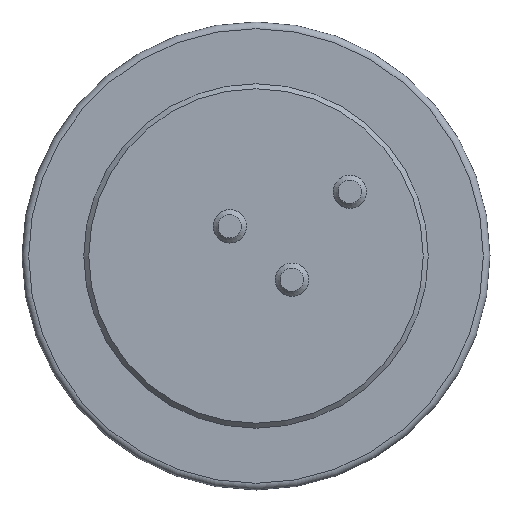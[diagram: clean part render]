
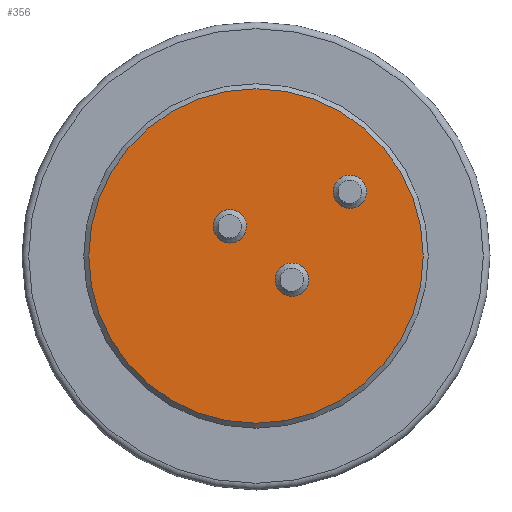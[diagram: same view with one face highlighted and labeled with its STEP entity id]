
A CAD part, left-side view. The second image highlights one B-rep face of the part: STEP entity #356.
In plain terms, the highlighted planar face has unit normal (-1, 0, 0).
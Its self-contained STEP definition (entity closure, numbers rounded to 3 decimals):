
#23=FACE_BOUND('',#98,.T.);
#24=FACE_BOUND('',#99,.T.);
#25=FACE_BOUND('',#100,.T.);
#35=PLANE('',#419);
#65=FACE_OUTER_BOUND('',#97,.T.);
#97=EDGE_LOOP('',(#300));
#98=EDGE_LOOP('',(#301));
#99=EDGE_LOOP('',(#302));
#100=EDGE_LOOP('',(#303));
#139=CIRCLE('',#382,5.);
#142=CIRCLE('',#388,5.);
#145=CIRCLE('',#394,50.);
#149=CIRCLE('',#401,5.);
#170=VERTEX_POINT('',#579);
#173=VERTEX_POINT('',#590);
#176=VERTEX_POINT('',#601);
#180=VERTEX_POINT('',#614);
#199=EDGE_CURVE('',#170,#170,#139,.T.);
#204=EDGE_CURVE('',#173,#173,#142,.T.);
#208=EDGE_CURVE('',#176,#176,#145,.T.);
#215=EDGE_CURVE('',#180,#180,#149,.T.);
#300=ORIENTED_EDGE('',*,*,#208,.F.);
#301=ORIENTED_EDGE('',*,*,#204,.F.);
#302=ORIENTED_EDGE('',*,*,#199,.F.);
#303=ORIENTED_EDGE('',*,*,#215,.F.);
#356=ADVANCED_FACE('',(#65,#23,#24,#25),#35,.F.);
#382=AXIS2_PLACEMENT_3D('',#581,#449,#450);
#388=AXIS2_PLACEMENT_3D('',#592,#463,#464);
#394=AXIS2_PLACEMENT_3D('',#602,#476,#477);
#401=AXIS2_PLACEMENT_3D('',#616,#493,#494);
#419=AXIS2_PLACEMENT_3D('',#646,#533,#534);
#449=DIRECTION('center_axis',(-1.,0.,0.));
#450=DIRECTION('ref_axis',(0.,1.,0.));
#463=DIRECTION('center_axis',(-1.,0.,0.));
#464=DIRECTION('ref_axis',(0.,1.,0.));
#476=DIRECTION('center_axis',(1.,0.,0.));
#477=DIRECTION('ref_axis',(0.,1.,0.));
#493=DIRECTION('center_axis',(-1.,0.,0.));
#494=DIRECTION('ref_axis',(0.,1.,0.));
#533=DIRECTION('center_axis',(1.,0.,0.));
#534=DIRECTION('ref_axis',(0.,1.,0.));
#579=CARTESIAN_POINT('',(127.5,-33.077,19.201));
#581=CARTESIAN_POINT('Origin',(127.5,-28.077,19.201));
#590=CARTESIAN_POINT('',(127.5,-15.757,-7.096));
#592=CARTESIAN_POINT('Origin',(127.5,-10.757,-7.096));
#601=CARTESIAN_POINT('',(127.5,-50.,0.));
#602=CARTESIAN_POINT('Origin',(127.5,0.,0.));
#614=CARTESIAN_POINT('',(127.5,2.831,8.863));
#616=CARTESIAN_POINT('Origin',(127.5,7.831,8.863));
#646=CARTESIAN_POINT('Origin',(127.5,0.,0.));
